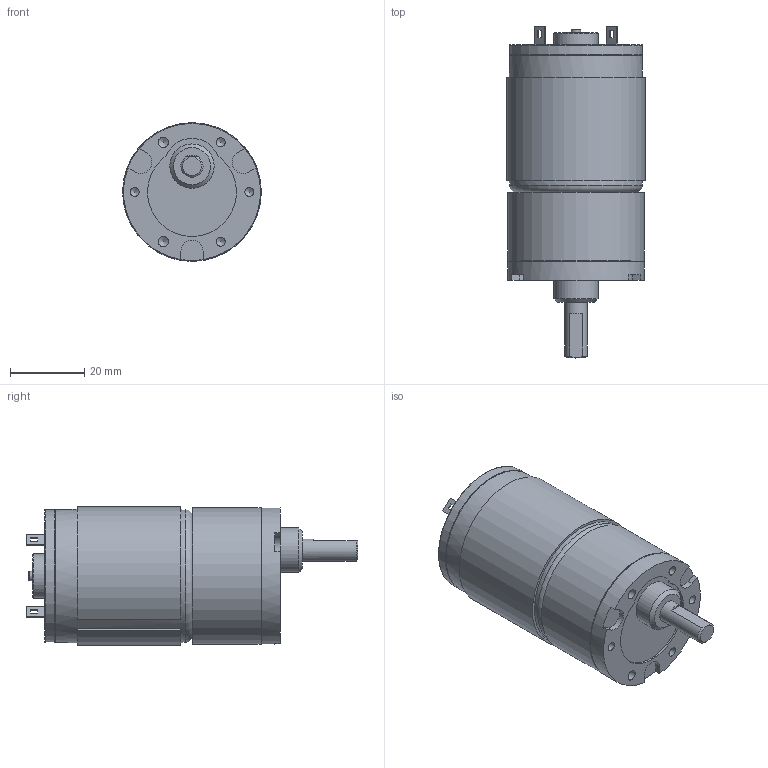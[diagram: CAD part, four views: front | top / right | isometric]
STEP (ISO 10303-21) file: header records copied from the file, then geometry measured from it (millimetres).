
FILE_DESCRIPTION((''),'2;1');
FILE_NAME('C:\Documents and Settings\SSEGAWA\デスクトップ\TP-3640B-KS-3.STP','2013-07-18T17:03:53',('SSEGAWA'),(''),'Autodesk Inventor 2010','Autodesk Inventor 2010','');
FILE_SCHEMA(('CONFIG_CONTROL_DESIGN'));
Length unit declared in the file: millimetre
Products named in the file (1): tp_3640bce_ks_3_Shrinkwrap_1
Bounding box: 37.5 x 89.7 x 37.5 mm (x, y, z)
Volume: 69392.8 mm3; surface area: 11421 mm2
Topology: 4 solids, 4 shells, 100 faces, 234 edges, 155 vertices
Faces by surface type: plane 56, bspline 20, cylinder 18, cone 3, torus 3
Full cylindrical faces by diameter (mm): 2.5 x1, 4 x1, 4.5 x1, 6 x1, 12 x2, 35.6 x1, 36 x2, 36.6 x1, 37 x2
Entity records: 2839 total; most frequent: CARTESIAN_POINT 698, DIRECTION 403, ORIENTED_EDGE 354, EDGE_CURVE 177, EDGE_LOOP 151, AXIS2_PLACEMENT_3D 147, VERTEX_POINT 132, VECTOR 109
